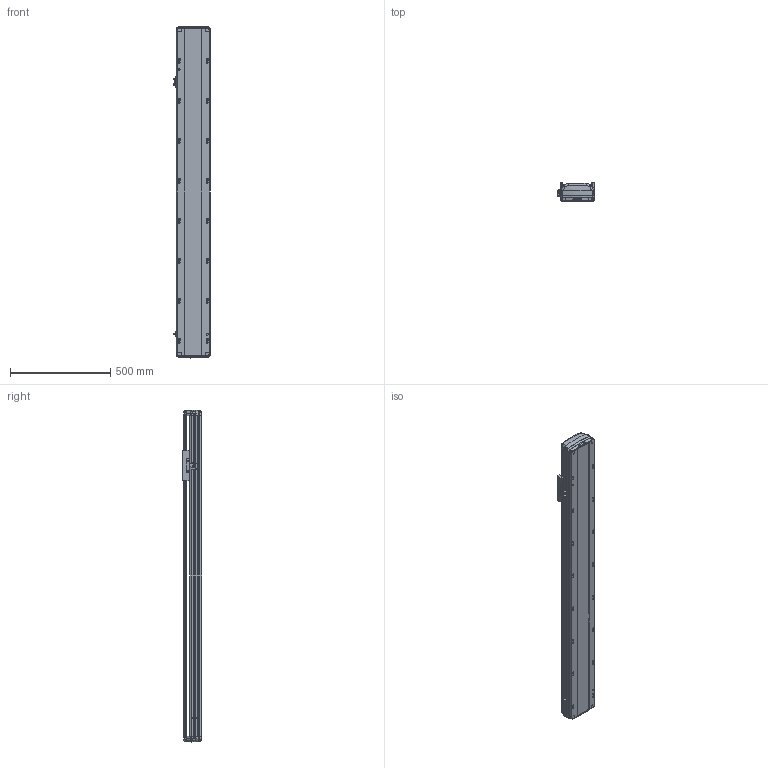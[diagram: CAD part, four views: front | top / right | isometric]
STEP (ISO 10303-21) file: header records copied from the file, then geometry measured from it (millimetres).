
FILE_DESCRIPTION (( 'STEP AP214' ), '1' );
FILE_NAME ('RTH17-XX-1250-B-M40-C4.STEP', '2025-10-24T08:40:24', ( '' ), ( '' ), 'SwSTEP 2.0', 'SolidWorks 2018', '' );
FILE_SCHEMA (( 'AUTOMOTIVE_DESIGN' ));
Length unit declared in the file: millimetre
Products named in the file (7): N_OMRON EE-SX672 換覜ん^RTH17-XX-XX-B-M40-C4ㄗ源最宒ㄘ; N_RTH17-M-007上盖^RTH17-XX-XX-B-M40-C4（方程式）; RTH17-XX-1250-B-M40-C4; N_RTH17-M-011底座^RTH17-XX-XX-B-M40-C4（方程式）; N_RTH17-GY-001P^RTH17-XX-XX-B-M40-C4（方程式）; N_RTH17-E-004丝杆螺母连接座^RTH17-XX-XX-B-M40-C4（方程式）; N_RTH-L-012 感应片(外置)^RTH17-XX-XX-B-M40-C4（方程式）
Assembly tree (9 placements, depth 2):
  RTH17-XX-1250-B-M40-C4
    N_RTH17-M-011底座^RTH17-XX-XX-B-M40-C4（方程式）
    N_RTH17-M-007上盖^RTH17-XX-XX-B-M40-C4（方程式）
    N_OMRON EE-SX672 換覜ん^RTH17-XX-XX-B-M40-C4ㄗ源最宒ㄘ  x3
    N_RTH-L-012 感应片(外置)^RTH17-XX-XX-B-M40-C4（方程式）
    N_RTH17-E-004丝杆螺母连接座^RTH17-XX-XX-B-M40-C4（方程式）
    N_RTH17-GY-001P^RTH17-XX-XX-B-M40-C4（方程式）  x2
Bounding box: 183.5 x 97 x 1659.88 mm (x, y, z)
Volume: 11995869.1 mm3; surface area: 1617707.9 mm2
Topology: 7 solids, 11 shells, 1768 faces, 4988 edges, 3242 vertices
Faces by surface type: plane 815, cylinder 487, bspline 420, cone 28, torus 18
Entity records: 42582 total; most frequent: CARTESIAN_POINT 17551, ORIENTED_EDGE 5480, DIRECTION 4336, EDGE_CURVE 2744, VERTEX_POINT 1796, LINE 1472, VECTOR 1472, AXIS2_PLACEMENT_3D 1432
